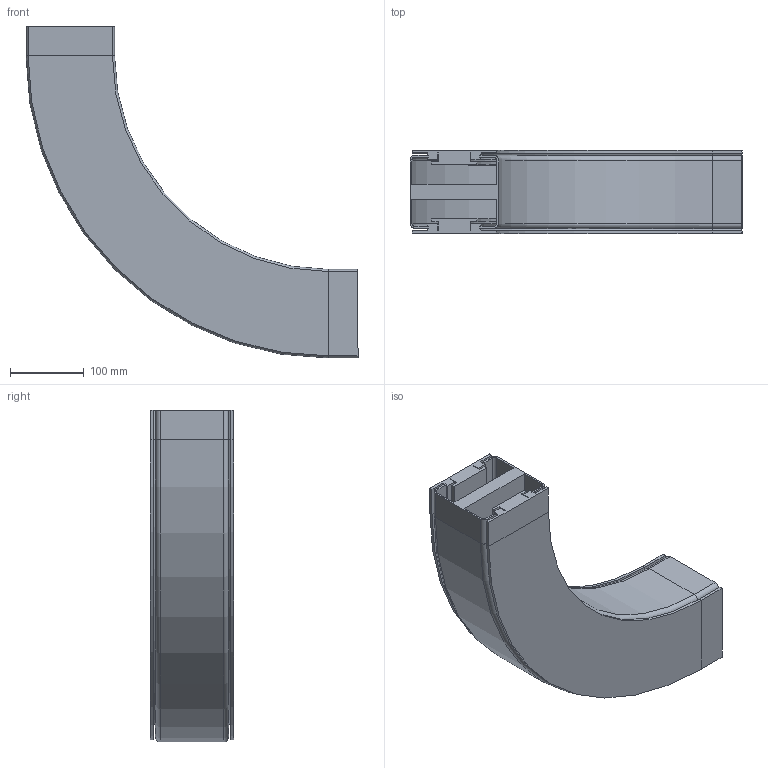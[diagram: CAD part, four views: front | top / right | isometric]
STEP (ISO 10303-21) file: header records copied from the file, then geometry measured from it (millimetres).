
FILE_DESCRIPTION (( 'STEP AP214' ), '1' );
FILE_NAME ('VC.120 Horizontale bochtsectie.R350 90.STEP', '2017-02-08T07:48:12', ( '' ), ( '' ), 'SwSTEP 2.0', 'SolidWorks 2016', '' );
FILE_SCHEMA (( 'AUTOMOTIVE_DESIGN' ));
Length unit declared in the file: millimetre
Products named in the file (1): VC.120 Horizontale bochtsectie.R350 90
Bounding box: 450 x 113 x 450 mm (x, y, z)
Volume: 3713257.3 mm3; surface area: 909672 mm2
Topology: 1 solids, 1 shells, 206 faces, 476 edges, 272 vertices
Faces by surface type: plane 152, cylinder 38, cone 8, torus 8
Entity records: 5674 total; most frequent: DIRECTION 990, CARTESIAN_POINT 955, ORIENTED_EDGE 952, EDGE_CURVE 476, VECTOR 376, LINE 376, AXIS2_PLACEMENT_3D 307, VERTEX_POINT 272
